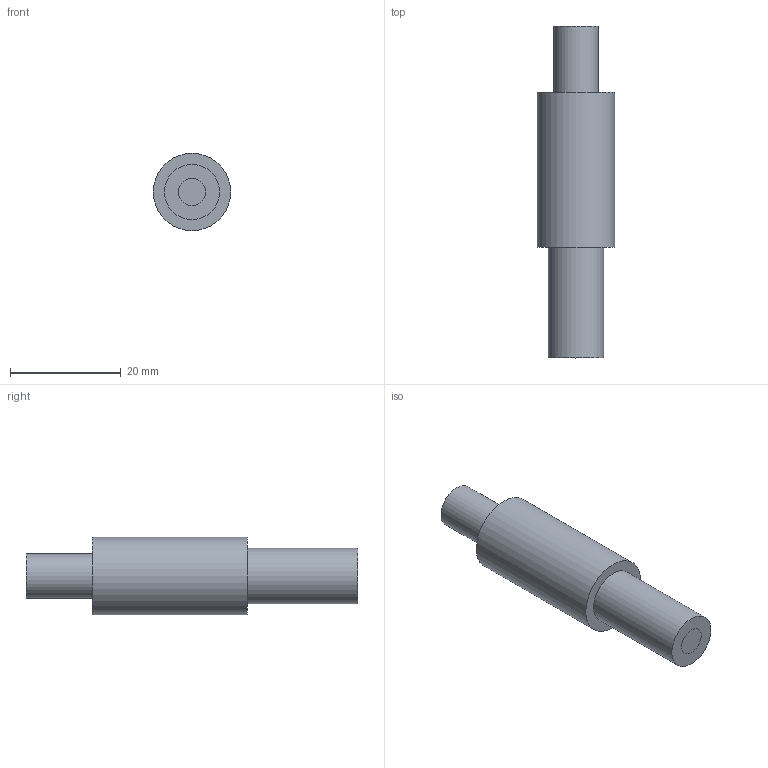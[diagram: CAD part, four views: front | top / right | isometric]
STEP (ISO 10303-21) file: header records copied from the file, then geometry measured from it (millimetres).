
FILE_DESCRIPTION(/* description */ (''),/* implementation_level */ '2;1');
FILE_NAME(/* name */ '//sv004/特品事業部/特品共通フォルダ/☆社外用データテスト/☆佐貫管理フォルダー☆/10_外観図一覧/A_ファイバー光源/A_20_58 ライトガイド/LGC1-5L1000 照射部.step',/* time_stamp */ '2022-06-16T09:55:16+09:00',/* author */ (''),/* organization */ (''),/* preprocessor_version */ 'ST-DEVELOPER v19',/* originating_system */ 'Autodesk Translation Framework v11.7.0.108',/* authorisation */ '');
FILE_SCHEMA (('AUTOMOTIVE_DESIGN { 1 0 10303 214 3 1 1 }'));
Length unit declared in the file: millimetre
Products named in the file (1): LGC1-5L1000 照射部
Bounding box: 14 x 60 x 14 mm (x, y, z)
Volume: 6484.2 mm3; surface area: 4472.1 mm2
Topology: 3 solids, 3 shells, 13 faces, 18 edges, 12 vertices
Faces by surface type: plane 7, cylinder 6
Full cylindrical faces by diameter (mm): 5 x3, 8 x1, 10 x1, 14 x1
Entity records: 323 total; most frequent: DIRECTION 58, CARTESIAN_POINT 44, ORIENTED_EDGE 36, AXIS2_PLACEMENT_3D 26, EDGE_LOOP 18, EDGE_CURVE 18, FACE_OUTER_BOUND 13, ADVANCED_FACE 13
